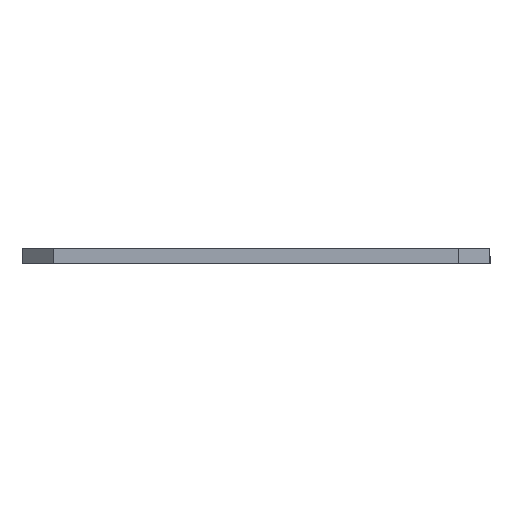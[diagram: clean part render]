
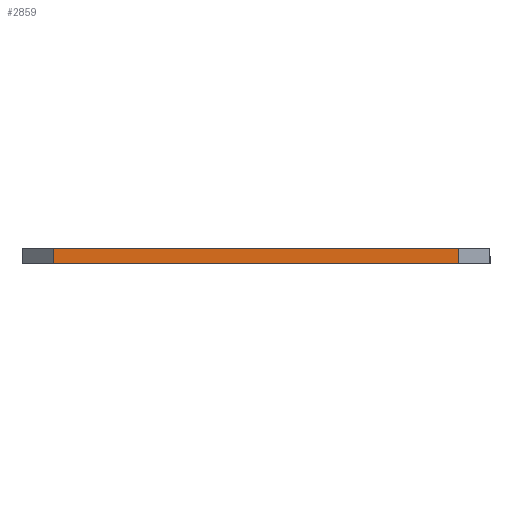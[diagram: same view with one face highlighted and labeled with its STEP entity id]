
A CAD part, left-side view. The second image highlights one B-rep face of the part: STEP entity #2859.
In plain terms, the highlighted planar face has unit normal (-1, 0, 0).
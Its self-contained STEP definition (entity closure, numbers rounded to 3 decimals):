
#415 = EDGE_CURVE ( 'NONE', #2346, #2413, #3682, .T. ) ;
#472 = EDGE_CURVE ( 'NONE', #2795, #2794, #1543, .T. ) ;
#603 = DIRECTION ( 'NONE',  ( 0., 0., -1. ) ) ;
#604 = CARTESIAN_POINT ( 'NONE',  ( -51.5, 26., 2. ) ) ;
#605 = LINE ( 'NONE', #604, #3142 ) ;
#606 = DIRECTION ( 'NONE',  ( 0., 0., 1. ) ) ;
#607 = CARTESIAN_POINT ( 'NONE',  ( -51.5, -26., 2. ) ) ;
#608 = LINE ( 'NONE', #607, #3145 ) ;
#944 = DIRECTION ( 'NONE',  ( 0., 1., 0. ) ) ;
#945 = DIRECTION ( 'NONE',  ( 1., 0., 0. ) ) ;
#946 = CARTESIAN_POINT ( 'NONE',  ( -51.5, 30., 2. ) ) ;
#947 = PLANE ( 'NONE',  #3058 ) ;
#1135 = CARTESIAN_POINT ( 'NONE',  ( -51.5, 26., 0. ) ) ;
#1136 = CARTESIAN_POINT ( 'NONE',  ( -51.5, -26., 0. ) ) ;
#1313 = CARTESIAN_POINT ( 'NONE',  ( -51.5, -26., 2. ) ) ;
#1358 = CARTESIAN_POINT ( 'NONE',  ( -51.5, 26., 2. ) ) ;
#1541 = DIRECTION ( 'NONE',  ( 0., -1., 0. ) ) ;
#1542 = CARTESIAN_POINT ( 'NONE',  ( -51.5, 30., 0. ) ) ;
#1543 = LINE ( 'NONE', #1542, #1902 ) ;
#1642 = VECTOR ( 'NONE', #3678, 1000. ) ;
#1902 = VECTOR ( 'NONE', #1541, 1000. ) ;
#2138 = ORIENTED_EDGE ( 'NONE', *, *, #472, .T. ) ;
#2145 = ORIENTED_EDGE ( 'NONE', *, *, #415, .F. ) ;
#2146 = ORIENTED_EDGE ( 'NONE', *, *, #2962, .T. ) ;
#2147 = ORIENTED_EDGE ( 'NONE', *, *, #2963, .T. ) ;
#2346 = VERTEX_POINT ( 'NONE', #1358 ) ;
#2413 = VERTEX_POINT ( 'NONE', #1313 ) ;
#2794 = VERTEX_POINT ( 'NONE', #1136 ) ;
#2795 = VERTEX_POINT ( 'NONE', #1135 ) ;
#2859 = ADVANCED_FACE ( 'NONE', ( #3033 ), #947, .F. ) ;
#2962 = EDGE_CURVE ( 'NONE', #2794, #2413, #608, .T. ) ;
#2963 = EDGE_CURVE ( 'NONE', #2346, #2795, #605, .T. ) ;
#3033 = FACE_OUTER_BOUND ( 'NONE', #3717, .T. ) ;
#3058 = AXIS2_PLACEMENT_3D ( 'NONE', #946, #945, #944 ) ;
#3142 = VECTOR ( 'NONE', #603, 1000. ) ;
#3145 = VECTOR ( 'NONE', #606, 1000. ) ;
#3678 = DIRECTION ( 'NONE',  ( 0., -1., 0. ) ) ;
#3680 = CARTESIAN_POINT ( 'NONE',  ( -51.5, 30., 2. ) ) ;
#3682 = LINE ( 'NONE', #3680, #1642 ) ;
#3717 = EDGE_LOOP ( 'NONE', ( #2138, #2146, #2145, #2147 ) ) ;
